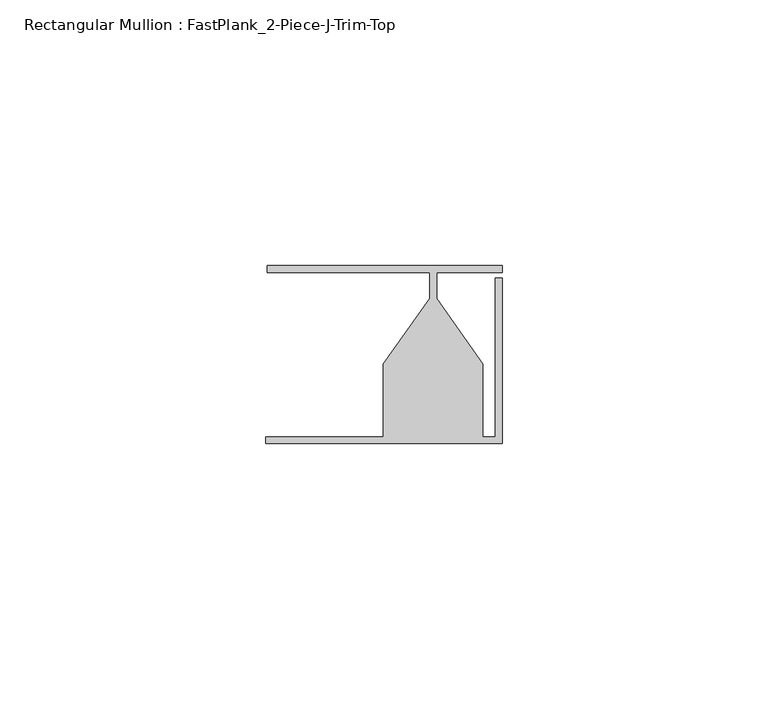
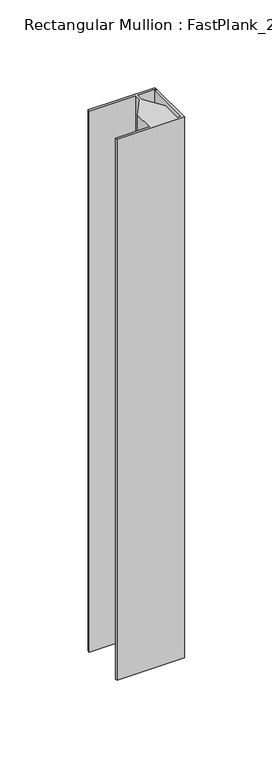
"""IFC4 building model written with IfcOpenShell, lengths in millimetres: member geometry, Rectangular Mullion : FastPlank_2-Piece-J-Trim-Top."""

from ifc_helpers import new_model, si_unit, frame, origin, place, context, project, spatial, polyline, outline, extrude, source, transform, mapped, element, save


def rectangular_mullion_fastplank_2_piece_j_trim_top_41258425(model_context):
    return source(origin(), model_context, "Body", "SweptSolid", [
        extrude(outline(polyline([(0.0, 11.8625052), (0.0, 10.5618154), (-12.3176464, 10.5618154), (-12.3176464, 5.7038113), (-3.6053348, -6.6543757), (-3.6053348, -20.3381228), (-1.2999974, -20.3381228), (-1.2999974, 9.5619969), (0.0, 9.5619969), (0.0, -21.6381202), (-44.4475015, -21.6381202), (-44.4475015, -20.3381228), (-22.3299553, -20.3381228), (-22.3299553, -6.6543757), (-13.6176438, 5.7038113), (-13.6176438, 10.5618154), (-44.2023711, 10.5618154), (-44.2023711, 11.8625052), (0.0, 11.8625052)])), frame((0.0, 0.0, -376.5616116), z_axis=(0.0, 0.0, 1.0), x_axis=(1.0, 0.0, 0.0)), (0.0, 0.0, 1.0), 376.5616116),
    ])


if __name__ == "__main__":
    model = new_model("IFC4")
    model_context = context("Model", 3, world=origin())
    ifc_project = project(units=[si_unit("LENGTHUNIT", "METRE", prefix="MILLI")], contexts=[model_context])
    site = spatial("IfcSite", under=ifc_project)
    building = spatial("IfcBuilding", under=site)
    placement = place(None, origin())
    rectangular_mullion_fastplank_2_piece_j_trim_top_shape = rectangular_mullion_fastplank_2_piece_j_trim_top_41258425(model_context)
    element("IfcMember", 1, ObjectType="Rectangular Mullion : FastPlank_2-Piece-J-Trim-Top", at=placement, inside=building, context=model_context, shape_type="MappedRepresentation", body=[
        mapped(rectangular_mullion_fastplank_2_piece_j_trim_top_shape, transform((0.0, 0.0, 0.0), x_axis=(1.0, 0.0, 0.0), y_axis=(0.0, 1.0, 0.0), z_axis=(0.0, 0.0, 1.0))),
    ])
    save(model, "model.ifc")
